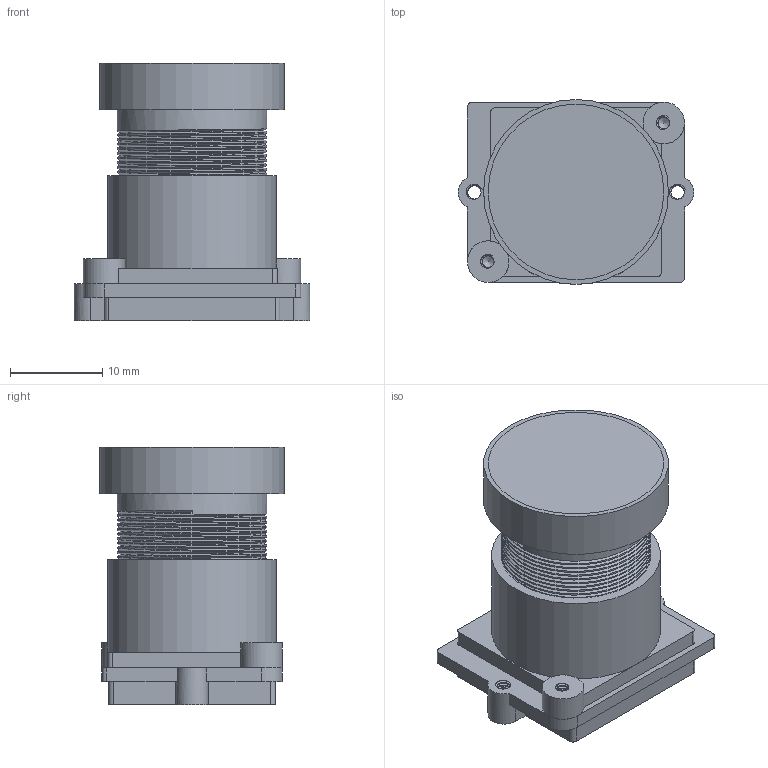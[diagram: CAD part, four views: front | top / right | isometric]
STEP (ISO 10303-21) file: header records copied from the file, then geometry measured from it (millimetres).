
FILE_DESCRIPTION(('FreeCAD Model'),'2;1');
FILE_NAME('Open CASCADE Shape Model','2026-06-02T20:51:03',(''),(''), 'Open CASCADE STEP processor 7.8','FreeCAD','Unknown');
FILE_SCHEMA(('AUTOMOTIVE_DESIGN { 1 0 10303 214 1 1 1 1 }'));
Length unit declared in the file: millimetre
Products named in the file (4): Unnamed; Body; Lens; glass
Assembly tree (3 placements, depth 2):
  Unnamed
    Body
    Lens
    glass
Bounding box: 25.5 x 20 x 27.85 mm (x, y, z)
Volume: 2294.6 mm3; surface area: 5925.3 mm2
Topology: 3 solids, 3 shells, 360 faces, 853 edges, 503 vertices
Faces by surface type: bspline 202, cylinder 104, plane 52, cone 2
Full cylindrical faces by diameter (mm): 1.269 x14, 1.45 x22, 4.5 x2, 14 x1, 15 x1, 16 x19, 16.2 x20, 18 x1, 18.3 x1, 19 x2, 20 x1
Entity records: 30486 total; most frequent: CARTESIAN_POINT 23960, ORIENTED_EDGE 1702, EDGE_CURVE 851, DIRECTION 647, B_SPLINE_CURVE_WITH_KNOTS 602, VERTEX_POINT 503, FACE_BOUND 374, EDGE_LOOP 374
